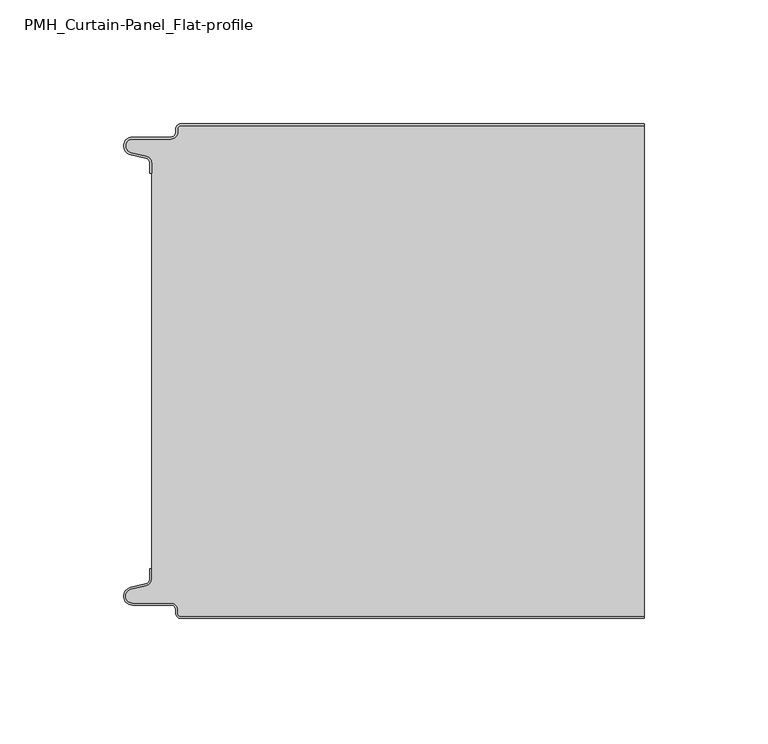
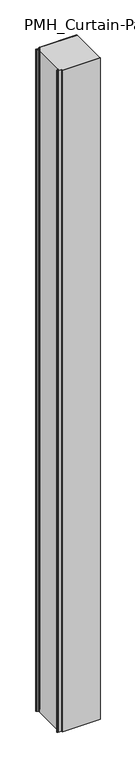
"""IFC4 building model written with IfcOpenShell, lengths in millimetres: plate geometry, PMH_Curtain-Panel_Flat-profile : ACH_PMH_Stone-wool-Panel_200M."""

from ifc_helpers import new_model, si_unit, point, frame_2d, origin, origin_with_axes, place, context, project, spatial, polyline, circle_curve, trimmed, segment, composite_curve, outline, extrude, source, transform, mapped, element, save


def pmh_curtain_panel_flat_profile_30f47993(model_context):
    return source(origin(), model_context, "Body", "SweptSolid", [
        extrude(outline(composite_curve([segment(trimmed(circle_curve(frame_2d((-87.4, -2.0)), 1.2), [point((-87.4, -0.8))], [point((-88.6, -2.0))], True, "CARTESIAN"), True, "CONTINUOUS"), segment(polyline([(-88.6, -2.0), (-88.6, -3.4)]), True, "CONTINUOUS"), segment(trimmed(circle_curve(frame_2d((-91.4, -3.4)), 2.8), [point((-88.6, -3.4))], [point((-91.4, -6.2))], False, "CARTESIAN"), True, "CONTINUOUS"), segment(polyline([(-91.4, -6.2), (-106.9, -6.2)]), True, "CONTINUOUS"), segment(trimmed(circle_curve(frame_2d((-106.9, -9.0)), 2.8), [point((-106.9, -6.2))], [point((-107.529863, -11.7282362))], True, "CARTESIAN"), True, "CONTINUOUS"), segment(polyline([(-107.529863, -11.7282362), (-101.370137, -13.150321)]), True, "CONTINUOUS"), segment(trimmed(circle_curve(frame_2d((-102.0, -15.878557)), 2.8), [point((-101.370137, -13.150321))], [point((-99.2, -15.878557))], False, "CARTESIAN"), True, "CONTINUOUS"), segment(polyline([(-99.2, -15.878557), (-99.2, -20.0), (-100.0, -20.0), (-100.0, -15.878557)]), True, "CONTINUOUS"), segment(trimmed(circle_curve(frame_2d((-102.0, -15.878557)), 2.0), [point((-100.0, -15.878557))], [point((-101.5500978, -13.9298169))], True, "CARTESIAN"), True, "CONTINUOUS"), segment(polyline([(-101.5500978, -13.9298169), (-107.7098239, -12.507732)]), True, "CONTINUOUS"), segment(trimmed(circle_curve(frame_2d((-106.9, -9.0)), 3.6), [point((-107.7098239, -12.507732))], [point((-106.9, -5.4))], False, "CARTESIAN"), True, "CONTINUOUS"), segment(polyline([(-106.9, -5.4), (-91.4, -5.4)]), True, "CONTINUOUS"), segment(trimmed(circle_curve(frame_2d((-91.4, -3.4)), 2.0), [point((-91.4, -5.4))], [point((-89.4, -3.4))], True, "CARTESIAN"), True, "CONTINUOUS"), segment(polyline([(-89.4, -3.4), (-89.4, -2.0)]), True, "CONTINUOUS"), segment(trimmed(circle_curve(frame_2d((-87.4, -2.0)), 2.0), [point((-89.4, -2.0))], [point((-87.4, 0.0))], False, "CARTESIAN"), True, "CONTINUOUS"), segment(polyline([(-87.4, 0.0), (100.0, 0.0), (100.0, -0.8), (-87.4, -0.8)]), True, "CONTINUOUS")], self_intersect=False)), origin_with_axes(), (0.0, 0.0, 1.0), 3500.0),
        extrude(outline(composite_curve([segment(polyline([(-99.2, -184.1214426), (-99.2, -15.8785573)]), True, "CONTINUOUS"), segment(trimmed(circle_curve(frame_2d((-102.0, -15.8785573)), 2.8), [point((-99.2, -15.8785573))], [point((-101.370137, -13.1503212))], True, "CARTESIAN"), True, "CONTINUOUS"), segment(polyline([(-101.370137, -13.1503212), (-107.5298631, -11.7282362)]), True, "CONTINUOUS"), segment(trimmed(circle_curve(frame_2d((-106.9, -9.0)), 2.8), [point((-107.5298631, -11.7282362))], [point((-106.9, -6.2))], False, "CARTESIAN"), True, "CONTINUOUS"), segment(polyline([(-106.9, -6.2), (-91.4000001, -6.2)]), True, "CONTINUOUS"), segment(trimmed(circle_curve(frame_2d((-91.4000001, -3.4)), 2.8), [point((-91.4000001, -6.2))], [point((-88.6000001, -3.4))], True, "CARTESIAN"), True, "CONTINUOUS"), segment(polyline([(-88.6000001, -3.4), (-88.6000001, -2.0)]), True, "CONTINUOUS"), segment(trimmed(circle_curve(frame_2d((-87.4000001, -2.0)), 1.2), [point((-88.6000001, -2.0))], [point((-87.4000001, -0.8))], False, "CARTESIAN"), True, "CONTINUOUS"), segment(polyline([(-87.4000001, -0.8), (100.0, -0.8), (100.0, -199.2), (-87.4000001, -199.2)]), True, "CONTINUOUS"), segment(trimmed(circle_curve(frame_2d((-87.4000001, -198.0)), 1.2), [point((-87.4000001, -199.2))], [point((-88.6000001, -198.0))], False, "CARTESIAN"), True, "CONTINUOUS"), segment(polyline([(-88.6000001, -198.0), (-88.6000001, -196.6)]), True, "CONTINUOUS"), segment(trimmed(circle_curve(frame_2d((-91.4000001, -196.6)), 2.8), [point((-88.6000001, -196.6))], [point((-91.4000001, -193.8))], True, "CARTESIAN"), True, "CONTINUOUS"), segment(polyline([(-91.4000001, -193.8), (-106.9, -193.8)]), True, "CONTINUOUS"), segment(trimmed(circle_curve(frame_2d((-106.9, -191.0)), 2.8), [point((-106.9, -193.8))], [point((-107.5298631, -188.2717638))], False, "CARTESIAN"), True, "CONTINUOUS"), segment(polyline([(-107.5298631, -188.2717638), (-101.370137, -186.8496788)]), True, "CONTINUOUS"), segment(trimmed(circle_curve(frame_2d((-102.0, -184.1214426)), 2.8), [point((-101.370137, -186.8496788))], [point((-99.2, -184.1214426))], True, "CARTESIAN"), True, "CONTINUOUS")], self_intersect=False)), origin_with_axes(), (0.0, 0.0, 1.0), 3500.0),
        extrude(outline(composite_curve([segment(trimmed(circle_curve(frame_2d((-87.4, -198.0)), 2.0), [point((-87.4, -200.0))], [point((-89.4, -198.0))], False, "CARTESIAN"), True, "CONTINUOUS"), segment(polyline([(-89.4, -198.0), (-89.4, -196.6)]), True, "CONTINUOUS"), segment(trimmed(circle_curve(frame_2d((-91.4, -196.6)), 2.0), [point((-89.4, -196.6))], [point((-91.4, -194.6))], True, "CARTESIAN"), True, "CONTINUOUS"), segment(polyline([(-91.4, -194.6), (-106.9, -194.6)]), True, "CONTINUOUS"), segment(trimmed(circle_curve(frame_2d((-106.9, -191.0)), 3.6), [point((-106.9, -194.6))], [point((-107.7098239, -187.4922678))], False, "CARTESIAN"), True, "CONTINUOUS"), segment(polyline([(-107.7098239, -187.4922678), (-101.5500979, -186.070183)]), True, "CONTINUOUS"), segment(trimmed(circle_curve(frame_2d((-102.0, -184.121443)), 2.0), [point((-101.5500979, -186.070183))], [point((-100.0, -184.121443))], True, "CARTESIAN"), True, "CONTINUOUS"), segment(polyline([(-100.0, -184.121443), (-100.0, -180.0), (-99.2, -180.0), (-99.2, -184.121443)]), True, "CONTINUOUS"), segment(trimmed(circle_curve(frame_2d((-102.0, -184.121443)), 2.8), [point((-99.2, -184.121443))], [point((-101.370137, -186.8496792))], False, "CARTESIAN"), True, "CONTINUOUS"), segment(polyline([(-101.370137, -186.8496792), (-107.529863, -188.271764)]), True, "CONTINUOUS"), segment(trimmed(circle_curve(frame_2d((-106.9, -191.0)), 2.8), [point((-107.529863, -188.271764))], [point((-106.9, -193.8))], True, "CARTESIAN"), True, "CONTINUOUS"), segment(polyline([(-106.9, -193.8), (-91.4, -193.8)]), True, "CONTINUOUS"), segment(trimmed(circle_curve(frame_2d((-91.4, -196.6)), 2.8), [point((-91.4, -193.8))], [point((-88.6, -196.6))], False, "CARTESIAN"), True, "CONTINUOUS"), segment(polyline([(-88.6, -196.6), (-88.6, -198.0)]), True, "CONTINUOUS"), segment(trimmed(circle_curve(frame_2d((-87.4, -198.0)), 1.2), [point((-88.6, -198.0))], [point((-87.4, -199.2))], True, "CARTESIAN"), True, "CONTINUOUS"), segment(polyline([(-87.4, -199.2), (100.0, -199.2), (100.0, -200.0), (-87.4, -200.0)]), True, "CONTINUOUS")], self_intersect=False)), origin_with_axes(), (0.0, 0.0, 1.0), 3500.0),
    ])


if __name__ == "__main__":
    model = new_model("IFC4")
    model_context = context("Model", 3, world=origin())
    ifc_project = project(units=[si_unit("LENGTHUNIT", "METRE", prefix="MILLI")], contexts=[model_context])
    site = spatial("IfcSite", under=ifc_project)
    building = spatial("IfcBuilding", under=site)
    placement = place(None, origin())
    pmh_curtain_panel_flat_profile_shape = pmh_curtain_panel_flat_profile_30f47993(model_context)
    element("IfcPlate", 1, ObjectType="PMH_Curtain-Panel_Flat-profile : ACH_PMH_Stone-wool-Panel_200M", at=placement, inside=building, context=model_context, shape_type="MappedRepresentation", body=[
        mapped(pmh_curtain_panel_flat_profile_shape, transform((0.0, 0.0, 0.0), x_axis=(1.0, 0.0, 0.0), y_axis=(0.0, 1.0, 0.0), z_axis=(0.0, 0.0, 1.0))),
    ])
    save(model, "model.ifc")
